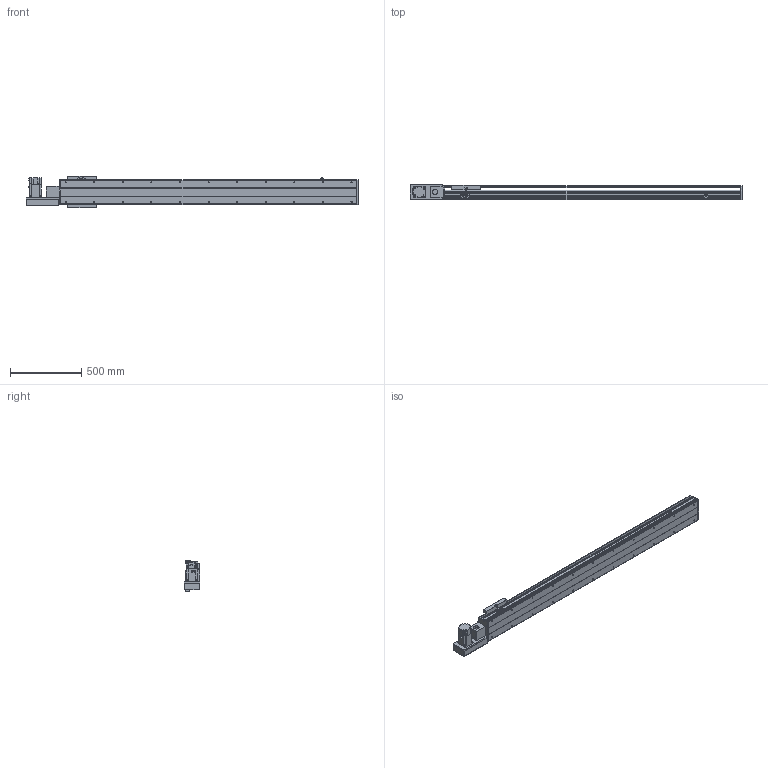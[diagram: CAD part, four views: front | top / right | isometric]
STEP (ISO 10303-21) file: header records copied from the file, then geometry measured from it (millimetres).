
FILE_DESCRIPTION(/* description */ ('STEP AP214'),/* implementation_level */ '2;1');
FILE_NAME(/* name */ 'PBS200-P40-S1700-L-T75-C1-N(0)',/* time_stamp */ '2022-06-11T07:49:34+02:00',/* author */ ('License CC BY-ND 4.0'),/* organization */ ('CADENAS'),/* preprocessor_version */ 'ST-DEVELOPER v18.102',/* originating_system */ 'PARTsolutions',/* authorisation */ ' ');
FILE_SCHEMA (('AUTOMOTIVE_DESIGN {1 0 10303 214 3 1 1}'));
Length unit declared in the file: millimetre
Products named in the file (7): PBS200-P40-S1700-L-T75-C1-N(0); PBS200_sensor; PBS200_plant; PBS200_sliser; T75-p1; PBS200T-L_motors; PBS200-S1700()_body
Assembly tree (8 placements, depth 2):
  PBS200-P40-S1700-L-T75-C1-N(0)
    PBS200_sensor  x3
    PBS200_plant
    PBS200_sliser
    T75-p1
    PBS200T-L_motors
    PBS200-S1700()_body
Bounding box: 2322 x 109 x 221 mm (x, y, z)
Volume: 15608767.1 mm3; surface area: 2508498.3 mm2
Topology: 8 solids, 8 shells, 938 faces, 2404 edges, 1566 vertices
Faces by surface type: plane 580, cylinder 304, cone 54
Full cylindrical faces by diameter (mm): 2.459 x6, 3.242 x4, 4.5 x6, 4.917 x4, 5 x6, 6 x7, 6.6 x8, 6.647 x26, 8 x6, 10 x4, 12 x8, 38 x2, 40 x1, 70 x1
Entity records: 24941 total; most frequent: DIRECTION 4399, CARTESIAN_POINT 4246, ORIENTED_EDGE 4018, EDGE_CURVE 2009, AXIS2_PLACEMENT_3D 1543, VERTEX_POINT 1390, LINE 1313, VECTOR 1313
